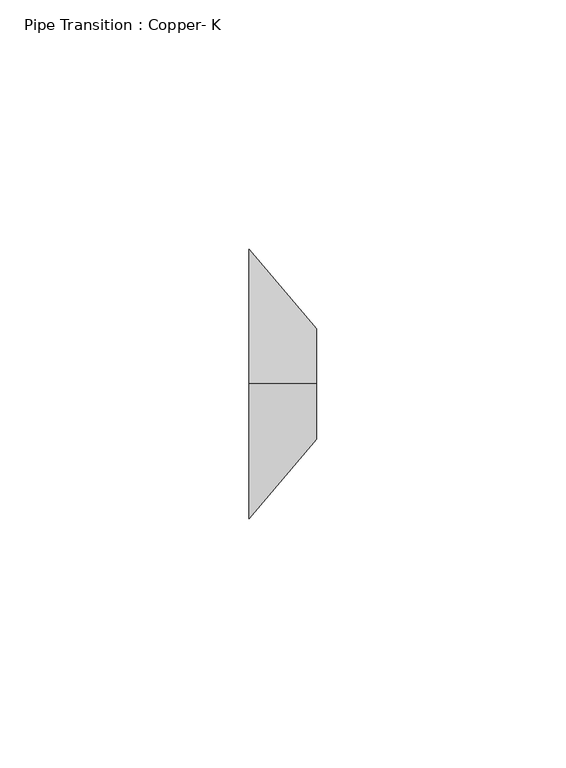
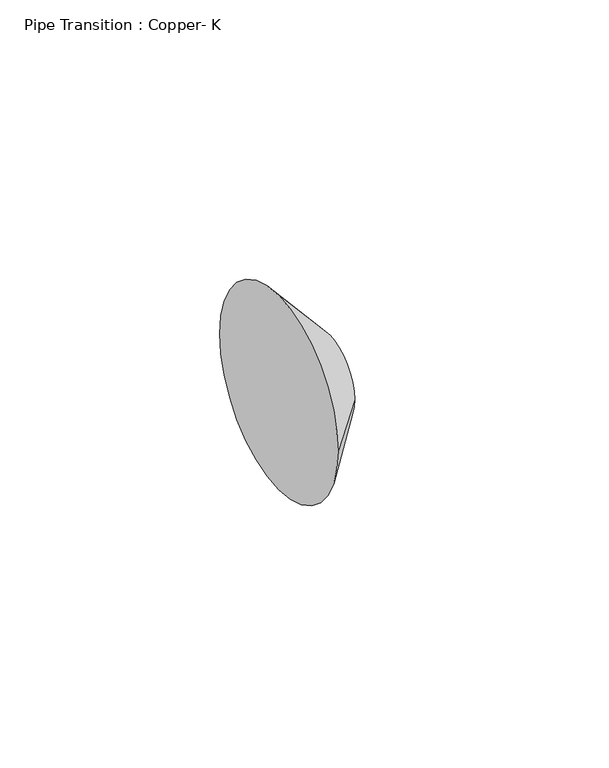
"""IFC4 building model written with IfcOpenShell, lengths in millimetres: pipe fitting geometry, Pipe Transition : Copper- K."""

import ifcopenshell
import ifcopenshell.guid

model = None  # the IFC model being written
_history = None  # IfcOwnerHistory: only IFC2X3 demands one
_inside = {}  # id of a spatial element -> (the spatial element, [elements in it])
_under = {}  # id of a project, library or spatial element -> (it, [spatial elements below it])
_declared = {}  # id of a project -> (the project, [libraries it declares])
_typed = {}  # id of a type object -> (the type object, [elements of that type])
_made_of = {}  # id of a material, layer set ... -> (it, [elements and type objects made of it])


def new_model(schema):
    """Start an empty IFC model of exactly this schema.

    Asked for "IFC4X3", IfcOpenShell would pick the latest addendum, in which some entities
    have other attributes; the version numbers below select the first issue.
    IFC2X3 requires an IfcOwnerHistory on every rooted entity: one is made here for all.
    """
    global model, _history
    if schema == "IFC4X3":
        model = ifcopenshell.file(schema_version=(4, 3, 0, 0))
    else:
        model = ifcopenshell.file(schema=schema)
    _inside.clear()
    _under.clear()
    _declared.clear()
    _typed.clear()
    _made_of.clear()
    _history = None
    if model.schema == "IFC2X3":
        org = make("IfcOrganization", Name="unknown")
        user = make(
            "IfcPersonAndOrganization",
            ThePerson=make("IfcPerson", FamilyName="unknown"),
            TheOrganization=org,
        )
        app = make(
            "IfcApplication",
            ApplicationDeveloper=org,
            Version="unknown",
            ApplicationFullName="unknown",
            ApplicationIdentifier="unknown",
        )
        _history = make(
            "IfcOwnerHistory",
            OwningUser=user,
            OwningApplication=app,
            ChangeAction="ADDED",
            CreationDate=0,
        )
    return model


def make(cls, **values):
    """One entity of the class cls with the attributes given. An attribute that is None is left unset."""
    return model.create_entity(
        cls, **{name: value for name, value in values.items() if value is not None}
    )


def rooted(cls, **values):
    """An entity with a GlobalId (a new one), such as an element, a storey or a relation."""
    return make(cls, GlobalId=ifcopenshell.guid.new(), OwnerHistory=_history, **values)


def si_unit(unit_type, name, prefix=None):
    """IfcSIUnit, for example si_unit("LENGTHUNIT", "METRE", prefix="MILLI")."""
    return make("IfcSIUnit", UnitType=unit_type, Prefix=prefix, Name=name)


def assignment(units):
    """IfcUnitAssignment: the units of a project."""
    return None if units is None else make("IfcUnitAssignment", Units=units)


def point(xyz):
    """IfcCartesianPoint."""
    return None if xyz is None else make("IfcCartesianPoint", Coordinates=xyz)


def direction(xyz):
    """IfcDirection."""
    return None if xyz is None else make("IfcDirection", DirectionRatios=xyz)


def frame(location, z_axis=None, x_axis=None):
    """IfcAxis2Placement3D, a coordinate frame: its origin and axes. An axis left out is left unset."""
    return make(
        "IfcAxis2Placement3D",
        Location=point(location),
        Axis=direction(z_axis),
        RefDirection=direction(x_axis),
    )


def origin():
    """The frame at (0, 0, 0) with its axes left unset."""
    return frame((0.0, 0.0, 0.0))


def place(relative_to, where):
    """IfcLocalPlacement: puts the frame where relative to a parent placement (None: the world)."""
    return make(
        "IfcLocalPlacement", PlacementRelTo=relative_to, RelativePlacement=where
    )


def context(
    kind, dimensions, precision=None, world=None, true_north=None, identifier=None
):
    """IfcGeometricRepresentationContext, for example the 3D "Model" context."""
    return make(
        "IfcGeometricRepresentationContext",
        ContextIdentifier=identifier,
        ContextType=kind,
        CoordinateSpaceDimension=dimensions,
        Precision=precision,
        WorldCoordinateSystem=world,
        TrueNorth=true_north,
    )


def project(units=None, contexts=None):
    """IfcProject with its units and contexts."""
    return rooted(
        "IfcProject",
        Name="project",
        RepresentationContexts=contexts,
        UnitsInContext=assignment(units),
    )


def spatial(cls, under=None, at=None, **own):
    """A site, building, storey or space (cls), placed at a placement, below another one or the project."""
    s = rooted(cls, ObjectPlacement=at, **own)
    if under is not None:
        _under.setdefault(under.id(), (under, []))[1].append(s)
    return s


def circle_curve(where, radius):
    """IfcCircle in the frame where."""
    return make("IfcCircle", Position=where, Radius=radius)


def shape(context_of_items, identifier, shape_type, items):
    """IfcShapeRepresentation: the items that make up one representation, for example the "Body"."""
    return make(
        "IfcShapeRepresentation",
        ContextOfItems=context_of_items,
        RepresentationIdentifier=identifier,
        RepresentationType=shape_type,
        Items=items,
    )


def source(mapping_origin, context_of_items, identifier, shape_type, items):
    """IfcRepresentationMap: a shape defined once, which mapped items show again and again."""
    return make(
        "IfcRepresentationMap",
        MappingOrigin=mapping_origin,
        MappedRepresentation=shape(context_of_items, identifier, shape_type, items),
    )


def transform(
    local_origin,
    x_axis=None,
    y_axis=None,
    z_axis=None,
    scale=None,
    scale2=None,
    scale3=None,
    uniform=True,
):
    """IfcCartesianTransformationOperator3D, or its non-uniform kind. x_axis, y_axis, z_axis: its Axis1, 2, 3."""
    if uniform:
        return make(
            "IfcCartesianTransformationOperator3D",
            Axis1=direction(x_axis),
            Axis2=direction(y_axis),
            LocalOrigin=point(local_origin),
            Scale=scale,
            Axis3=direction(z_axis),
        )
    return make(
        "IfcCartesianTransformationOperator3DnonUniform",
        Axis1=direction(x_axis),
        Axis2=direction(y_axis),
        LocalOrigin=point(local_origin),
        Scale=scale,
        Axis3=direction(z_axis),
        Scale2=scale2,
        Scale3=scale3,
    )


def mapped(mapping_source, mapping_target):
    """IfcMappedItem: shows the shape of a source again, moved by a transform."""
    return make(
        "IfcMappedItem", MappingSource=mapping_source, MappingTarget=mapping_target
    )


def made_of(thing, what):
    """Note that an element or type object is made of a material, layer set ...; save() writes the relation."""
    if what is not None:
        _made_of.setdefault(what.id(), (what, []))[1].append(thing)
    return thing


def element(
    cls,
    number,
    at=None,
    inside=None,
    cuts=None,
    type_object=None,
    material=None,
    context=None,
    identifier="Body",
    shape_type=None,
    held_by="IfcProductDefinitionShape",
    body=None,
    shapes=None,
    **own,
):
    """One element of the class cls, such as IfcWall. Its Tag is "e" and its number.

    at: its placement. inside: the storey or other place that contains it. cuts: it is an
    opening in that element (IfcRelVoidsElement). A single representation is given by context,
    identifier, shape_type and body (its items); several are given by shapes. held_by: the class
    of the entity that holds the representations. save() writes the other relations.
    """
    e = rooted(cls, Tag="e%d" % number, ObjectPlacement=at, **own)
    if body is not None:
        shapes = [shape(context, identifier, shape_type, body)]
    if shapes is not None:
        e.Representation = make(held_by, Representations=shapes)
    if inside is not None:
        _inside.setdefault(inside.id(), (inside, []))[1].append(e)
    if cuts is not None:
        rooted(
            "IfcRelVoidsElement", RelatingBuildingElement=cuts, RelatedOpeningElement=e
        )
    if type_object is not None:
        _typed.setdefault(type_object.id(), (type_object, []))[1].append(e)
    return made_of(e, material)


def aggregate(whole, parts):
    """IfcRelAggregates: a whole, such as a stair, and the parts it consists of."""
    return rooted("IfcRelAggregates", RelatingObject=whole, RelatedObjects=parts)


def save(model, path):
    """Write the relations noted so far, then the file.

    IfcRelAggregates (storeys below a building ...), IfcRelContainedInSpatialStructure (elements
    in a storey), IfcRelDefinesByType, IfcRelAssociatesMaterial and IfcRelDeclares: one each for
    every whole, place, type object, material and project.
    """
    for whole, parts in _under.values():
        aggregate(whole, parts)
    for where, things in _inside.values():
        rooted(
            "IfcRelContainedInSpatialStructure",
            RelatedElements=things,
            RelatingStructure=where,
        )
    for kind, things in _typed.values():
        rooted("IfcRelDefinesByType", RelatedObjects=things, RelatingType=kind)
    for what, things in _made_of.values():
        rooted("IfcRelAssociatesMaterial", RelatedObjects=things, RelatingMaterial=what)
    for by, libraries in _declared.values():
        rooted("IfcRelDeclares", RelatingContext=by, RelatedDefinitions=libraries)
    model.write(path)


def plane_surface(at):
    """IfcPlane: the flat surface through the origin of the frame at, square to its z axis."""
    return make("IfcPlane", Position=at)


def spline_surface(u_degree, v_degree, points, u_multiplicities, v_multiplicities, u_knots, v_knots, weights=None):
    """IfcBSplineSurfaceWithKnots; with weights, IfcRationalBSplineSurfaceWithKnots. points: one row for each step in u."""
    own = dict(
        UDegree=u_degree,
        VDegree=v_degree,
        ControlPointsList=[[point(p) for p in row] for row in points],
        SurfaceForm="UNSPECIFIED",
        UClosed=False,
        VClosed=False,
        SelfIntersect=False,
        UMultiplicities=u_multiplicities,
        VMultiplicities=v_multiplicities,
        UKnots=u_knots,
        VKnots=v_knots,
        KnotSpec="UNSPECIFIED",
    )
    if weights is None:
        return make("IfcBSplineSurfaceWithKnots", **own)
    return make("IfcRationalBSplineSurfaceWithKnots", WeightsData=weights, **own)


def advanced_brep(points, edges, surfaces, faces):
    """IfcAdvancedBrep: a solid bounded by faces that lie on surfaces and meet in shared edges.

    An edge is (start, end): straight between two places in points (the first is 0);
    or (start, end, curve); or (start, end, curve, False) where it runs against its curve.
    A face is (place in surfaces, loops), or (place, loops, False) where it looks against
    its surface's normal. A loop lists edges by number (the first is 1), with a minus sign
    where the edge is run from its end to its start. The first loop is the outer one.
    """
    corners = [point(p) for p in points]
    vertices = [make("IfcVertexPoint", VertexGeometry=c) for c in corners]
    made = []
    for start, end, *more in edges:
        made.append(
            make(
                "IfcEdgeCurve",
                EdgeStart=vertices[start],
                EdgeEnd=vertices[end],
                EdgeGeometry=more[0] if more else make("IfcPolyline", Points=[corners[start], corners[end]]),
                SameSense=more[1] if len(more) > 1 else True,
            )
        )
    hull = []
    for where, loops, *sense in faces:
        bounds = []
        for j, loop in enumerate(loops):
            ring = [make("IfcOrientedEdge", EdgeElement=made[abs(k) - 1], Orientation=k > 0) for k in loop]
            bounds.append(
                make(
                    "IfcFaceOuterBound" if j == 0 else "IfcFaceBound",
                    Bound=make("IfcEdgeLoop", EdgeList=ring),
                    Orientation=True,
                )
            )
        hull.append(make("IfcAdvancedFace", Bounds=bounds, FaceSurface=surfaces[where], SameSense=sense[0] if sense else True))
    return make("IfcAdvancedBrep", Outer=make("IfcClosedShell", CfsFaces=hull))


def pipe_transition_copper_k_8e4424fc(model_context):
    return source(origin(), model_context, "Body", "AdvancedBrep", [
        advanced_brep(
        [(13.49375, 0.0, 11.1466171), (13.49375, -11.1125, 0.0341171), (13.49375, 0.0, -11.0783829), (13.49375, 11.1125, 0.0341171), (0.0, 0.0, 26.9875), (0.0, 26.9875, 0.0), (0.0, 0.0, -26.9875), (0.0, -26.9875, 0.0)],
        [
            (0, 1, circle_curve(frame((13.49375, 0.0, 0.0341171), z_axis=(1.0, 0.0, 0.0), x_axis=(0.0, 1.0, 0.0)), 11.1125)),
            (1, 2, circle_curve(frame((13.49375, 0.0, 0.0341171), z_axis=(1.0, 0.0, 0.0), x_axis=(0.0, 1.0, 0.0)), 11.1125)),
            (2, 3, circle_curve(frame((13.49375, 0.0, 0.0341171), z_axis=(1.0, 0.0, 0.0), x_axis=(0.0, 1.0, 0.0)), 11.1125)),
            (3, 0, circle_curve(frame((13.49375, 0.0, 0.0341171), z_axis=(1.0, 0.0, 0.0), x_axis=(0.0, 1.0, 0.0)), 11.1125)),
            (4, 5, circle_curve(frame((0.0, 0.0, 0.0), z_axis=(-1.0, 0.0, 0.0), x_axis=(0.0, 1.0, 0.0)), 26.9875)),
            (5, 6, circle_curve(frame((0.0, 0.0, 0.0), z_axis=(-1.0, 0.0, 0.0), x_axis=(0.0, 1.0, 0.0)), 26.9875)),
            (6, 7, circle_curve(frame((0.0, 0.0, 0.0), z_axis=(-1.0, 0.0, 0.0), x_axis=(0.0, 1.0, 0.0)), 26.9875)),
            (7, 4, circle_curve(frame((0.0, 0.0, 0.0), z_axis=(-1.0, 0.0, 0.0), x_axis=(0.0, 1.0, 0.0)), 26.9875)),
            (7, 1),
            (0, 4),
            (6, 2),
            (5, 3),
        ],
        [
            plane_surface(frame((13.49375, 0.0, 0.0341171), z_axis=(1.0, 0.0, 0.0), x_axis=(0.0, -1.0, 0.0))),
            plane_surface(frame((0.0, 0.0, 0.0), z_axis=(-1.0, 0.0, 0.0), x_axis=(0.0, -1.0, 0.0))),
            spline_surface(2, 1, [[(0.0, 0.0, 26.9875), (13.49375, 0.0, 11.1466171)], [(0.0, -26.9875, 26.9875), (13.49375, -11.1125, 11.1466171)], [(0.0, -26.9875, 0.0), (13.49375, -11.1125, 0.0341171)]], [3, 3], [2, 2], [0.0, 1.0], [0.0, 1.0], weights=[[1.0, 1.0], [0.7071067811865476, 0.7071067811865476], [1.0, 1.0]]),
            spline_surface(2, 1, [[(0.0, -26.9875, 0.0), (13.49375, -11.1125, 0.0341171)], [(0.0, -26.9875, -26.9875), (13.49375, -11.1125, -11.078382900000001)], [(0.0, 0.0, -26.9875), (13.49375, 0.0, -11.0783829)]], [3, 3], [2, 2], [0.0, 1.0], [0.0, 1.0], weights=[[1.0, 1.0], [0.7071067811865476, 0.7071067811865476], [1.0, 1.0]]),
            spline_surface(2, 1, [[(0.0, 0.0, -26.9875), (13.49375, 0.0, -11.0783829)], [(0.0, 26.9875, -26.9875), (13.49375, 11.112499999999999, -11.0783829)], [(0.0, 26.9875, 0.0), (13.49375, 11.1125, 0.0341171)]], [3, 3], [2, 2], [0.0, 1.0], [0.0, 1.0], weights=[[1.0, 1.0], [0.7071067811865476, 0.7071067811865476], [1.0, 1.0]]),
            spline_surface(2, 1, [[(0.0, 26.9875, 0.0), (13.49375, 11.1125, 0.0341171)], [(0.0, 26.9875, 26.9875), (13.49375, 11.1125, 11.1466171)], [(0.0, 0.0, 26.9875), (13.49375, 0.0, 11.1466171)]], [3, 3], [2, 2], [0.0, 1.0], [0.0, 1.0], weights=[[1.0, 1.0], [0.7071067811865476, 0.7071067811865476], [1.0, 1.0]]),
        ],
        [
            (0, [[1, 2, 3, 4]]),
            (1, [[5, 6, 7, 8]]),
            (2, [[-8, 9, -1, 10]]),
            (3, [[-7, 11, -2, -9]]),
            (4, [[-6, 12, -3, -11]]),
            (5, [[-5, -10, -4, -12]]),
        ],
    ),
        advanced_brep(
        [(13.49375, 0.0, 11.1466171), (13.49375, -11.1125, 0.0341171), (13.49375, 0.0, -11.0783829), (13.49375, 11.1125, 0.0341171), (0.0, 0.0, 26.9875), (0.0, 26.9875, 0.0), (0.0, 0.0, -26.9875), (0.0, -26.9875, 0.0)],
        [
            (0, 1, circle_curve(frame((13.49375, 0.0, 0.0341171), z_axis=(1.0, 0.0, 0.0), x_axis=(0.0, 1.0, 0.0)), 11.1125)),
            (1, 2, circle_curve(frame((13.49375, 0.0, 0.0341171), z_axis=(1.0, 0.0, 0.0), x_axis=(0.0, 1.0, 0.0)), 11.1125)),
            (2, 3, circle_curve(frame((13.49375, 0.0, 0.0341171), z_axis=(1.0, 0.0, 0.0), x_axis=(0.0, 1.0, 0.0)), 11.1125)),
            (3, 0, circle_curve(frame((13.49375, 0.0, 0.0341171), z_axis=(1.0, 0.0, 0.0), x_axis=(0.0, 1.0, 0.0)), 11.1125)),
            (4, 5, circle_curve(frame((0.0, 0.0, 0.0), z_axis=(-1.0, 0.0, 0.0), x_axis=(0.0, 1.0, 0.0)), 26.9875)),
            (5, 6, circle_curve(frame((0.0, 0.0, 0.0), z_axis=(-1.0, 0.0, 0.0), x_axis=(0.0, 1.0, 0.0)), 26.9875)),
            (6, 7, circle_curve(frame((0.0, 0.0, 0.0), z_axis=(-1.0, 0.0, 0.0), x_axis=(0.0, 1.0, 0.0)), 26.9875)),
            (7, 4, circle_curve(frame((0.0, 0.0, 0.0), z_axis=(-1.0, 0.0, 0.0), x_axis=(0.0, 1.0, 0.0)), 26.9875)),
            (7, 1),
            (0, 4),
            (6, 2),
            (5, 3),
        ],
        [
            plane_surface(frame((13.49375, 0.0, 0.0341171), z_axis=(1.0, 0.0, 0.0), x_axis=(0.0, -1.0, 0.0))),
            plane_surface(frame((0.0, 0.0, 0.0), z_axis=(-1.0, 0.0, 0.0), x_axis=(0.0, -1.0, 0.0))),
            spline_surface(2, 1, [[(0.0, 0.0, 26.9875), (13.49375, 0.0, 11.1466171)], [(0.0, -26.9875, 26.9875), (13.49375, -11.1125, 11.1466171)], [(0.0, -26.9875, 0.0), (13.49375, -11.1125, 0.0341171)]], [3, 3], [2, 2], [0.0, 1.0], [0.0, 1.0], weights=[[1.0, 1.0], [0.7071067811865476, 0.7071067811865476], [1.0, 1.0]]),
            spline_surface(2, 1, [[(0.0, -26.9875, 0.0), (13.49375, -11.1125, 0.0341171)], [(0.0, -26.9875, -26.9875), (13.49375, -11.1125, -11.078382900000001)], [(0.0, 0.0, -26.9875), (13.49375, 0.0, -11.0783829)]], [3, 3], [2, 2], [0.0, 1.0], [0.0, 1.0], weights=[[1.0, 1.0], [0.7071067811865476, 0.7071067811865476], [1.0, 1.0]]),
            spline_surface(2, 1, [[(0.0, 0.0, -26.9875), (13.49375, 0.0, -11.0783829)], [(0.0, 26.9875, -26.9875), (13.49375, 11.112499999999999, -11.0783829)], [(0.0, 26.9875, 0.0), (13.49375, 11.1125, 0.0341171)]], [3, 3], [2, 2], [0.0, 1.0], [0.0, 1.0], weights=[[1.0, 1.0], [0.7071067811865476, 0.7071067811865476], [1.0, 1.0]]),
            spline_surface(2, 1, [[(0.0, 26.9875, 0.0), (13.49375, 11.1125, 0.0341171)], [(0.0, 26.9875, 26.9875), (13.49375, 11.1125, 11.1466171)], [(0.0, 0.0, 26.9875), (13.49375, 0.0, 11.1466171)]], [3, 3], [2, 2], [0.0, 1.0], [0.0, 1.0], weights=[[1.0, 1.0], [0.7071067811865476, 0.7071067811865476], [1.0, 1.0]]),
        ],
        [
            (0, [[1, 2, 3, 4]]),
            (1, [[5, 6, 7, 8]]),
            (2, [[-8, 9, -1, 10]]),
            (3, [[-7, 11, -2, -9]]),
            (4, [[-6, 12, -3, -11]]),
            (5, [[-5, -10, -4, -12]]),
        ],
    ),
    ])


if __name__ == "__main__":
    model = new_model("IFC4")
    model_context = context("Model", 3, world=origin())
    ifc_project = project(units=[si_unit("LENGTHUNIT", "METRE", prefix="MILLI")], contexts=[model_context])
    site = spatial("IfcSite", under=ifc_project)
    building = spatial("IfcBuilding", under=site)
    placement = place(None, origin())
    pipe_transition_copper_k_shape = pipe_transition_copper_k_8e4424fc(model_context)
    element("IfcPipeFitting", 1, ObjectType="Pipe Transition : Copper- K", at=placement, inside=building, context=model_context, shape_type="MappedRepresentation", body=[
        mapped(pipe_transition_copper_k_shape, transform((0.0, 0.0, 0.0), x_axis=(1.0, 0.0, 0.0), y_axis=(0.0, 1.0, 0.0), z_axis=(0.0, 0.0, 1.0))),
    ])
    save(model, "model.ifc")
